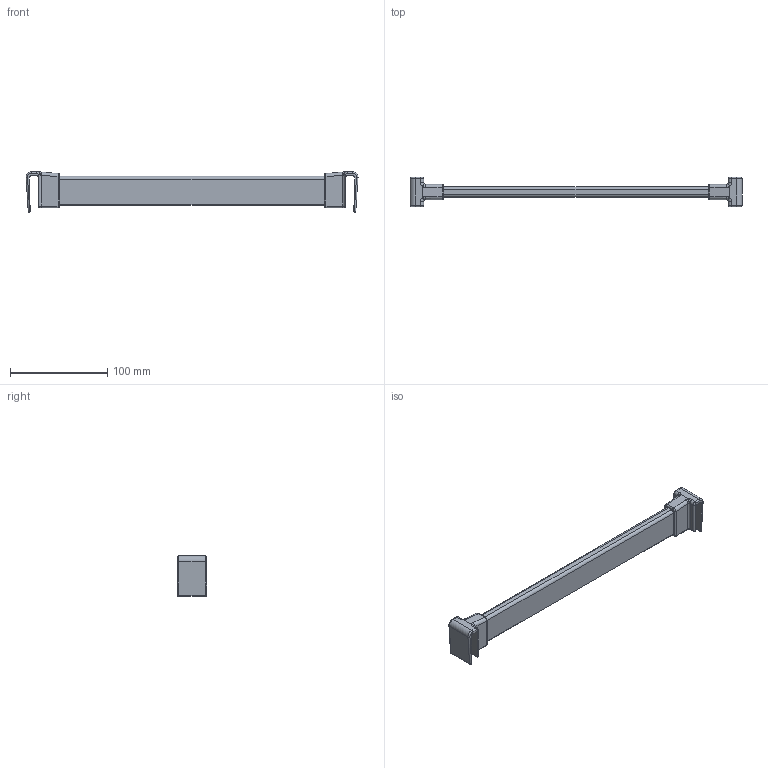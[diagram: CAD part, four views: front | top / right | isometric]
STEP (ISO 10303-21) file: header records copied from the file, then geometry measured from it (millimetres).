
FILE_DESCRIPTION (( 'STEP AP214' ), '1' );
FILE_NAME ('_Querreling_KAB-400_KS-16_P602_Glashalter.step', '2010-08-26T14:59:27', ( 'grass' ), ( '' ), 'SwSTEP 2.0', 'SolidWorks 2009', '' );
FILE_SCHEMA (( 'AUTOMOTIVE_DESIGN' ));
Length unit declared in the file: millimetre
Products named in the file (1): _Querreling_KAB-400_KS-16_P602_Glashalter
Bounding box: 340.78 x 30 x 41.5 mm (x, y, z)
Volume: 118954.2 mm3; surface area: 34966 mm2
Topology: 1 solids, 1 shells, 124 faces, 300 edges, 176 vertices
Faces by surface type: cylinder 58, plane 34, torus 16, bspline 12, sphere 4
Entity records: 5090 total; most frequent: CARTESIAN_POINT 2269, ORIENTED_EDGE 592, DIRECTION 590, EDGE_CURVE 296, AXIS2_PLACEMENT_3D 225, VERTEX_POINT 176, VECTOR 140, LINE 140
